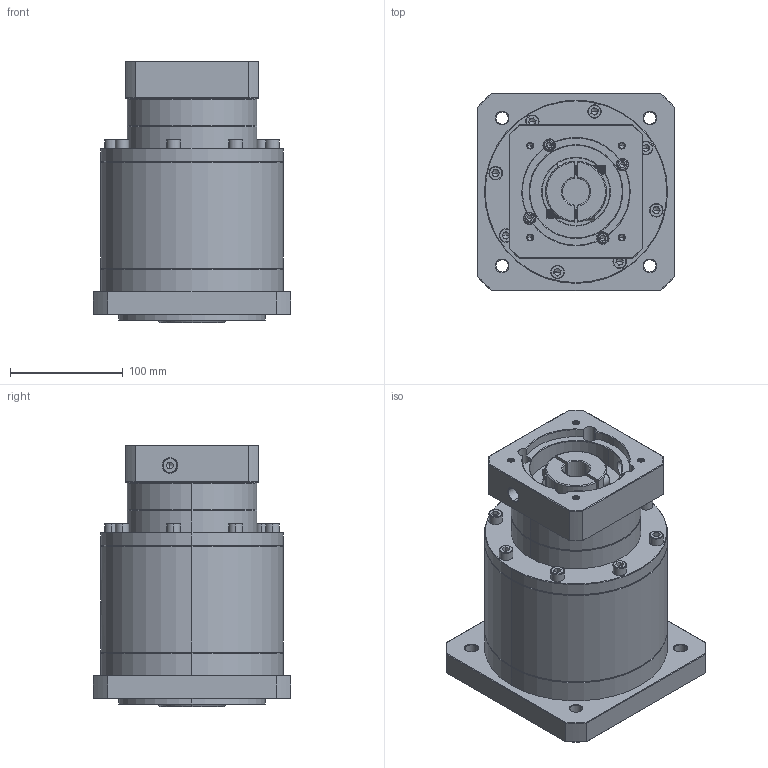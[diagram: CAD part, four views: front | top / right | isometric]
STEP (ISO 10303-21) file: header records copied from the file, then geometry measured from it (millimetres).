
FILE_DESCRIPTION (( 'STEP AP214' ), '1' );
FILE_NAME ('ZF160A-K35-L3-P2-24-95-115-M6.step', '2023-09-03T08:00:01', ( '' ), ( '' ), 'SwSTEP 2.0', 'SolidWorks 2016', '' );
FILE_SCHEMA (( 'AUTOMOTIVE_DESIGN' ));
Length unit declared in the file: millimetre
Products named in the file (1): ZF160A-K35-L3-P2-24-95-115-M6
Bounding box: 175 x 175 x 231.7 mm (x, y, z)
Volume: 3952065.6 mm3; surface area: 267353.5 mm2
Topology: 6 solids, 6 shells, 2385 faces, 6304 edges, 4041 vertices
Faces by surface type: plane 1112, cylinder 449, bspline 418, cone 370, torus 36
Entity records: 125209 total; most frequent: CARTESIAN_POINT 44924, ORIENTED_EDGE 12504, DIRECTION 9552, EDGE_CURVE 6252, VERTEX_POINT 4041, LINE 3326, VECTOR 3326, AXIS2_PLACEMENT_3D 3113
